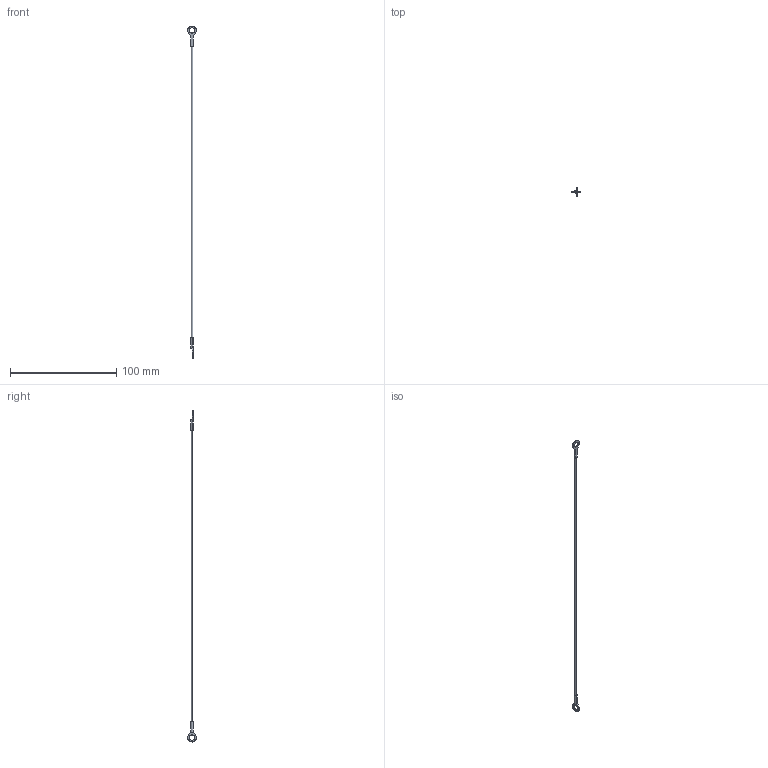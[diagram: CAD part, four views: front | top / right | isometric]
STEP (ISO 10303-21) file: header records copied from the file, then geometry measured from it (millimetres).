
FILE_DESCRIPTION (( 'STEP AP203' ), '1' );
FILE_NAME ('LA1070.I04-304C1.step', '2026-03-23T14:48:15', ( '' ), ( '' ), 'SwSTEP 2.0', 'SolidWorks 2019', '' );
FILE_SCHEMA (( 'CONFIG_CONTROL_DESIGN' ));
Length unit declared in the file: millimetre
Products named in the file (1): LA1070.I04-304C1
Bounding box: 8.38 x 8.38 x 313.18 mm (x, y, z)
Volume: 725.5 mm3; surface area: 1792.3 mm2
Topology: 1 solids, 1 shells, 27 faces, 65 edges, 42 vertices
Faces by surface type: plane 16, cylinder 11
Entity records: 874 total; most frequent: DIRECTION 143, CARTESIAN_POINT 135, ORIENTED_EDGE 130, EDGE_CURVE 65, AXIS2_PLACEMENT_3D 50, LINE 43, VECTOR 43, VERTEX_POINT 42
